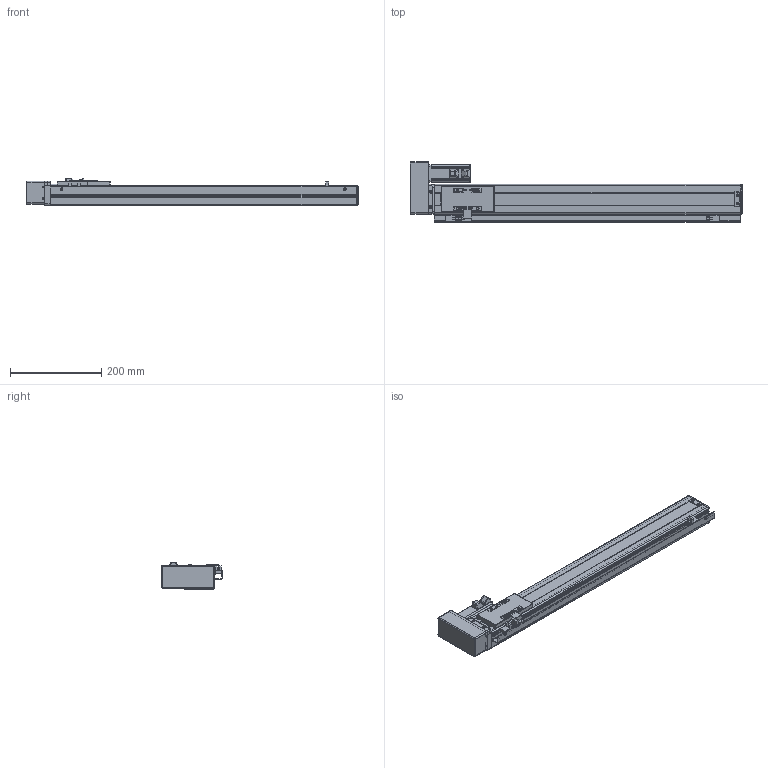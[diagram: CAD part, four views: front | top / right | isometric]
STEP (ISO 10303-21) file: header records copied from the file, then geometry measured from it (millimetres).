
FILE_DESCRIPTION (( 'STEP AP203' ), '1' );
FILE_NAME ('VT6-L10-C-S520-BR-P10-D4.STEP', '2015-10-26T06:17:27', ( '' ), ( '' ), 'SwSTEP 2.0', 'SolidWorks 2013', '' );
FILE_SCHEMA (( 'CONFIG_CONTROL_DESIGN' ));
Length unit declared in the file: millimetre
Products named in the file (17): ET6-BLRM絳寢_俴最520; ET6-BLRM滅鳥湍_520; ET6-BLRM佪裝_520; T6-綴傷裔; T6-BMLRヶ傷裔; T6-揤輸; T6-BMRLヶ傷裔揤啣; T6-BMRL肮祭湍謫欶; T6-BRL萇儂假蚾啣; T6-覜茼え; 侂狟100W MSMD012G1U; ET6-BC耜啣_520; T6-賑雄殤; ET6-BC癹弇羲壽羞_520; EE-XS674; VT6-L10-C-S520-BR-P10-D4; T6-裔啣
Assembly tree (19 placements, depth 2):
  VT6-L10-C-S520-BR-P10-D4
    ET6-BC耜啣_520  x2
    T6-賑雄殤
    T6-裔啣
    T6-揤輸
    T6-綴傷裔
    ET6-BLRM絳寢_俴最520
    ET6-BLRM滅鳥湍_520
    ET6-BLRM佪裝_520
    T6-BMLRヶ傷裔
    T6-BMRLヶ傷裔揤啣
    T6-BMRL肮祭湍謫欶
    侂狟100W MSMD012G1U
    T6-BRL萇儂假蚾啣
    T6-覜茼え
    ET6-BC癹弇羲壽羞_520
    EE-XS674  x3
Bounding box: 727 x 133 x 61 mm (x, y, z)
Volume: 879425 mm3; surface area: 556398.9 mm2
Topology: 19 solids, 19 shells, 909 faces, 2412 edges, 1528 vertices
Faces by surface type: cylinder 435, plane 374, cone 46, torus 36, sphere 18
Entity records: 28137 total; most frequent: CARTESIAN_POINT 4729, DIRECTION 4714, ORIENTED_EDGE 4342, EDGE_CURVE 2171, AXIS2_PLACEMENT_3D 1733, VERTEX_POINT 1388, VECTOR 1248, LINE 1248
